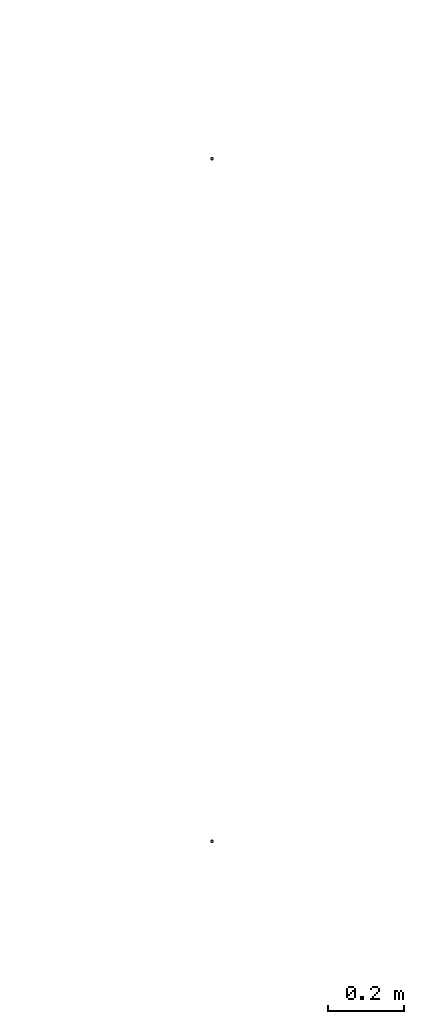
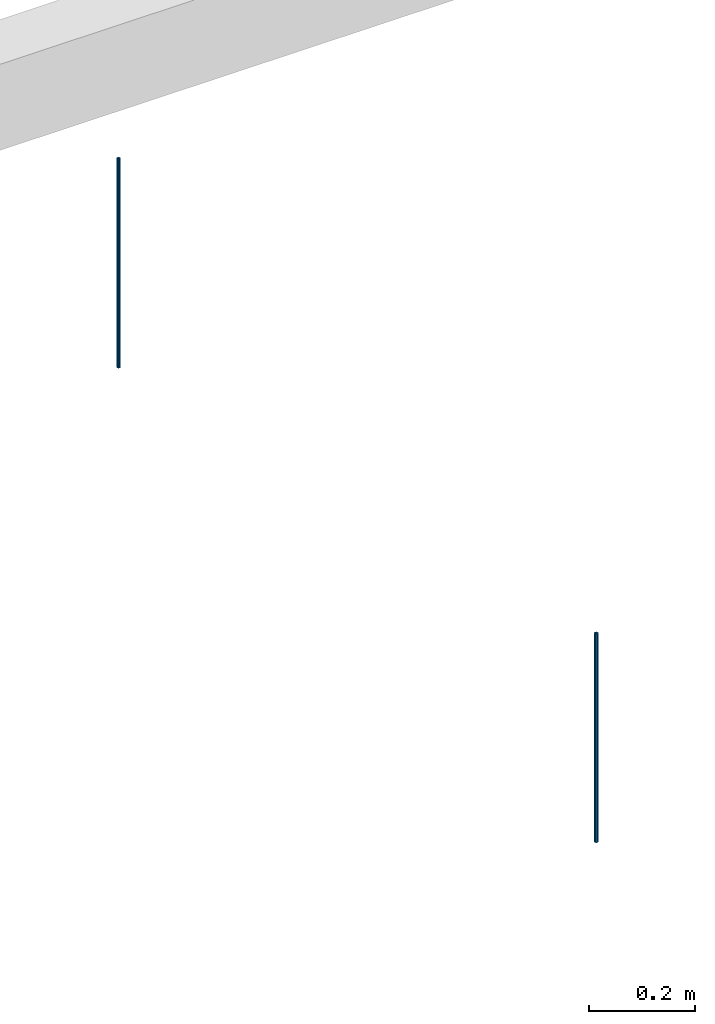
# One storey, part 19 of 23: 2 columns.
"""IFC2X3 building model written with IfcOpenShell, lengths in millimetres."""

from ifc_helpers import new_model, entity, si_unit, converted_unit, derived_unit, direction, frame, origin_with_axes, place, context, subcontext, project, spatial, faceted_brep, material, type_object, element, save


model = new_model("IFC2X3")

# Units and contexts
model_context = context("Model", 3, precision=0.01, world=frame((0.0, 4.29681676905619e-09, 0.0)), true_north=direction((4.01073788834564e-13, 1.0)))
plan_context = context("Plan", 3, precision=0.01, world=frame((0.0, 4.29681676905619e-09, 0.0)), true_north=direction((4.01073788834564e-13, 1.0)))
body_context = subcontext(model_context, "Body", "Model", "MODEL_VIEW")
ifc_project = project(units=[converted_unit("PLANEANGLEUNIT", "DEGREE", entity("IfcPositiveLengthMeasure", 0.0174532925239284), si_unit("PLANEANGLEUNIT", "RADIAN"), dimensions=[0, 0, 0, 0, 0, 0, 0]), si_unit("AREAUNIT", "SQUARE_METRE"), si_unit("LENGTHUNIT", "METRE", prefix="MILLI"), si_unit("MASSUNIT", "GRAM", prefix="KILO"), si_unit("POWERUNIT", "WATT"), si_unit("PRESSUREUNIT", "PASCAL", prefix="KILO"), si_unit("FORCEUNIT", "NEWTON", prefix="KILO"), si_unit("ELECTRICVOLTAGEUNIT", "VOLT"), si_unit("ELECTRICCURRENTUNIT", "AMPERE"), si_unit("THERMODYNAMICTEMPERATUREUNIT", "DEGREE_CELSIUS"), si_unit("TIMEUNIT", "SECOND"), si_unit("VOLUMEUNIT", "CUBIC_METRE"), derived_unit("LINEARVELOCITYUNIT", [(si_unit("LENGTHUNIT", "METRE"), 1), (si_unit("TIMEUNIT", "SECOND"), -1)]), derived_unit("VOLUMETRICFLOWRATEUNIT", [(si_unit("VOLUMEUNIT", "CUBIC_METRE"), 1), (si_unit("TIMEUNIT", "SECOND"), -1)]), derived_unit("THERMALTRANSMITTANCEUNIT", [(si_unit("POWERUNIT", "WATT"), 1), (si_unit("THERMODYNAMICTEMPERATUREUNIT", "KELVIN"), -1), (si_unit("AREAUNIT", "SQUARE_METRE"), -1)]), derived_unit("SOUNDPRESSUREUNIT", [(si_unit("PRESSUREUNIT", "PASCAL"), 1)])], contexts=[model_context, plan_context])

# Site, building, storey
site_placement = place(None, origin_with_axes())
site = spatial("IfcSite", under=ifc_project, at=site_placement, Name="ENGM", CompositionType="ELEMENT")
building_placement = place(site_placement, origin_with_axes())
building = spatial("IfcBuilding", under=site, at=building_placement, Name="TI", CompositionType="ELEMENT")
storey_placement = place(building_placement, frame((0.0, 0.0, 213700.0), z_axis=(0.0, 0.0, 1.0), x_axis=(1.0, 0.0, 0.0)))
storey = spatial("IfcBuildingStorey", under=building, at=storey_placement, Name="Nivå G - 2,0m", CompositionType="ELEMENT", Elevation=213700.0)

# Columns
ifc_material = material(Name="_NSW Stål")
column_type = type_object("IfcColumnType", Name="A241 - GRID-oppheng:A241 - GRID-oppheng - ø10 mm", PredefinedType="COLUMN", material=ifc_material)
column_1_placement = place(storey_placement, frame((593400.000000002, 577100.0, -213700.0), z_axis=(0.0, 0.0, 1.0), x_axis=(1.0, 0.0, 0.0)))
element("IfcColumn", 1, at=column_1_placement, inside=storey, type_object=column_type, Name="A241 - GRID-oppheng:A241 - GRID-oppheng - ø10 mm", ObjectType="A241 - GRID-oppheng:A241 - GRID-oppheng - ø10 mm", context=body_context, shape_type="Brep", body=[
    faceted_brep([(2.00000000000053, 2.95521980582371e-15, 214400.0), (1.96961550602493, -0.347296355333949, 214400.0), (1.96961550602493, -0.347296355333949, 213920.0), (2.00000000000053, 2.95521980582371e-15, 213920.0), (1.87938524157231, -0.684040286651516, 214400.0), (1.87938524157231, -0.684040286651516, 213920.0), (1.73205080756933, -1.00000000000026, 214400.0), (1.73205080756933, -1.00000000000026, 213920.0), (1.53208888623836, -1.28557521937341, 214400.0), (1.53208888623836, -1.28557521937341, 213920.0), (1.28557521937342, -1.53208888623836, 214400.0), (1.28557521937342, -1.53208888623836, 213920.0), (1.00000000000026, -1.73205080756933, 214400.0), (1.00000000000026, -1.73205080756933, 213920.0), (0.684040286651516, -1.87938524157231, 214400.0), (0.684040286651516, -1.87938524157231, 213920.0), (0.347296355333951, -1.96961550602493, 214400.0), (0.347296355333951, -1.96961550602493, 213920.0), (-2.38954857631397e-16, -2.00000000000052, 214400.0), (-2.38954857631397e-16, -2.00000000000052, 213920.0), (-0.347296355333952, -1.96961550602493, 214400.0), (-0.347296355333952, -1.96961550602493, 213920.0), (-0.684040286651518, -1.87938524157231, 214400.0), (-0.684040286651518, -1.87938524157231, 213920.0), (-1.00000000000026, -1.73205080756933, 214400.0), (-1.00000000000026, -1.73205080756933, 213920.0), (-1.28557521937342, -1.53208888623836, 214400.0), (-1.28557521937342, -1.53208888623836, 213920.0), (-1.53208888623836, -1.28557521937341, 214400.0), (-1.53208888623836, -1.28557521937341, 213920.0), (-1.73205080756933, -1.00000000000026, 214400.0), (-1.73205080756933, -1.00000000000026, 213920.0), (-1.87938524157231, -0.684040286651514, 214400.0), (-1.87938524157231, -0.684040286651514, 213920.0), (-1.96961550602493, -0.347296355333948, 214400.0), (-1.96961550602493, -0.347296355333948, 213920.0), (-2.00000000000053, 3.20014916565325e-15, 214400.0), (-2.00000000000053, 3.20014916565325e-15, 213920.0), (-1.96961550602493, 0.347296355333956, 214400.0), (-1.96961550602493, 0.347296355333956, 213920.0), (-1.87938524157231, 0.68404028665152, 214400.0), (-1.87938524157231, 0.68404028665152, 213920.0), (-1.73205080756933, 1.00000000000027, 214400.0), (-1.73205080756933, 1.00000000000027, 213920.0), (-1.53208888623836, 1.28557521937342, 214400.0), (-1.53208888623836, 1.28557521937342, 213920.0), (-1.28557521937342, 1.53208888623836, 214400.0), (-1.28557521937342, 1.53208888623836, 213920.0), (-1.00000000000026, 1.73205080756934, 214400.0), (-1.00000000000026, 1.73205080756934, 213920.0), (-0.684040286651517, 1.87938524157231, 214400.0), (-0.684040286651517, 1.87938524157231, 213920.0), (-0.347296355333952, 1.96961550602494, 214400.0), (-0.347296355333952, 1.96961550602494, 213920.0), (2.50903862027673e-16, 2.00000000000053, 214400.0), (2.50903862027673e-16, 2.00000000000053, 213920.0), (0.347296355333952, 1.96961550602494, 214400.0), (0.347296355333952, 1.96961550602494, 213920.0), (0.684040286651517, 1.87938524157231, 214400.0), (0.684040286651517, 1.87938524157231, 213920.0), (1.00000000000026, 1.73205080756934, 214400.0), (1.00000000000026, 1.73205080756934, 213920.0), (1.28557521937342, 1.53208888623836, 214400.0), (1.28557521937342, 1.53208888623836, 213920.0), (1.53208888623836, 1.28557521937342, 214400.0), (1.53208888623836, 1.28557521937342, 213920.0), (1.73205080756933, 1.00000000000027, 214400.0), (1.73205080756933, 1.00000000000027, 213920.0), (1.87938524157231, 0.68404028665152, 214400.0), (1.87938524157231, 0.68404028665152, 213920.0), (1.96961550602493, 0.347296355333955, 214400.0), (1.96961550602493, 0.347296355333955, 213920.0), (3.93923101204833, -0.694592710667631, 214400.0), (3.99999999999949, 2.95521980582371e-15, 214400.0), (3.99999999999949, 2.95521980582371e-15, 213920.0), (3.93923101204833, -0.694592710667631, 213920.0), (3.93923101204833, 0.694592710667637, 214400.0), (3.93923101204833, 0.694592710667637, 213920.0), (3.75877048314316, 1.3680805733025, 214400.0), (3.75877048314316, 1.3680805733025, 213920.0), (3.46410161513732, 1.99999999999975, 214400.0), (3.46410161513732, 1.99999999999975, 213920.0), (3.06417777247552, 2.57115043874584, 214400.0), (3.06417777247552, 2.57115043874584, 213920.0), (2.57115043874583, 3.06417777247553, 214400.0), (2.57115043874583, 3.06417777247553, 213920.0), (1.99999999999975, 3.46410161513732, 214400.0), (1.99999999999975, 3.46410161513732, 213920.0), (1.3680805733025, 3.75877048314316, 214400.0), (1.3680805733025, 3.75877048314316, 213920.0), (0.694592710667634, 3.93923101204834, 214400.0), (0.694592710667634, 3.93923101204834, 213920.0), (3.73368541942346e-16, 3.9999999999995, 214400.0), (3.73368541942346e-16, 3.9999999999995, 213920.0), (-0.694592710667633, 3.93923101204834, 214400.0), (-0.694592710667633, 3.93923101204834, 213920.0), (-1.3680805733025, 3.75877048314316, 214400.0), (-1.3680805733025, 3.75877048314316, 213920.0), (-1.99999999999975, 3.46410161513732, 214400.0), (-1.99999999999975, 3.46410161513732, 213920.0), (-2.57115043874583, 3.06417777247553, 214400.0), (-2.57115043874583, 3.06417777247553, 213920.0), (-3.06417777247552, 2.57115043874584, 214400.0), (-3.06417777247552, 2.57115043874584, 213920.0), (-3.46410161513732, 1.99999999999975, 214400.0), (-3.46410161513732, 1.99999999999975, 213920.0), (-3.75877048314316, 1.36808057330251, 214400.0), (-3.75877048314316, 1.36808057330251, 213920.0), (-3.93923101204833, 0.694592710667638, 214400.0), (-3.93923101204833, 0.694592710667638, 213920.0), (-3.99999999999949, 3.44507852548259e-15, 214400.0), (-3.99999999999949, 3.44507852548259e-15, 213920.0), (-3.93923101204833, -0.694592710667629, 214400.0), (-3.93923101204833, -0.694592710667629, 213920.0), (-3.75877048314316, -1.3680805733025, 214400.0), (-3.75877048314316, -1.3680805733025, 213920.0), (-3.46410161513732, -1.99999999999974, 214400.0), (-3.46410161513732, -1.99999999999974, 213920.0), (-3.06417777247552, -2.57115043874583, 214400.0), (-3.06417777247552, -2.57115043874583, 213920.0), (-2.57115043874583, -3.06417777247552, 214400.0), (-2.57115043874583, -3.06417777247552, 213920.0), (-1.99999999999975, -3.46410161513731, 214400.0), (-1.99999999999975, -3.46410161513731, 213920.0), (-1.3680805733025, -3.75877048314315, 214400.0), (-1.3680805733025, -3.75877048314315, 213920.0), (-0.694592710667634, -3.93923101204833, 214400.0), (-0.694592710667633, -3.93923101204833, 213920.0), (-6.06348897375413e-16, -3.99999999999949, 214400.0), (-6.06348897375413e-16, -3.99999999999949, 213920.0), (0.694592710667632, -3.93923101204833, 214400.0), (0.694592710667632, -3.93923101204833, 213920.0), (1.3680805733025, -3.75877048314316, 214400.0), (1.3680805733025, -3.75877048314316, 213920.0), (1.99999999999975, -3.46410161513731, 214400.0), (1.99999999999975, -3.46410161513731, 213920.0), (2.57115043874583, -3.06417777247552, 214400.0), (2.57115043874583, -3.06417777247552, 213920.0), (3.06417777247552, -2.57115043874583, 214400.0), (3.06417777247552, -2.57115043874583, 213920.0), (3.46410161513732, -1.99999999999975, 214400.0), (3.46410161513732, -1.99999999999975, 213920.0), (3.75877048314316, -1.3680805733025, 214400.0), (3.75877048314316, -1.3680805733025, 213920.0)], [[[0, 1, 2, 3]], [[1, 4, 5, 2]], [[4, 6, 7, 5]], [[6, 8, 9, 7]], [[8, 10, 11, 9]], [[10, 12, 13, 11]], [[12, 14, 15, 13]], [[14, 16, 17, 15]], [[16, 18, 19, 17]], [[18, 20, 21, 19]], [[20, 22, 23, 21]], [[22, 24, 25, 23]], [[24, 26, 27, 25]], [[26, 28, 29, 27]], [[28, 30, 31, 29]], [[30, 32, 33, 31]], [[32, 34, 35, 33]], [[34, 36, 37, 35]], [[36, 38, 39, 37]], [[38, 40, 41, 39]], [[40, 42, 43, 41]], [[42, 44, 45, 43]], [[44, 46, 47, 45]], [[46, 48, 49, 47]], [[48, 50, 51, 49]], [[50, 52, 53, 51]], [[52, 54, 55, 53]], [[54, 56, 57, 55]], [[56, 58, 59, 57]], [[58, 60, 61, 59]], [[60, 62, 63, 61]], [[62, 64, 65, 63]], [[64, 66, 67, 65]], [[66, 68, 69, 67]], [[68, 70, 71, 69]], [[70, 0, 3, 71]], [[72, 73, 74, 75]], [[73, 76, 77, 74]], [[76, 78, 79, 77]], [[78, 80, 81, 79]], [[80, 82, 83, 81]], [[82, 84, 85, 83]], [[84, 86, 87, 85]], [[86, 88, 89, 87]], [[88, 90, 91, 89]], [[90, 92, 93, 91]], [[92, 94, 95, 93]], [[94, 96, 97, 95]], [[96, 98, 99, 97]], [[98, 100, 101, 99]], [[100, 102, 103, 101]], [[102, 104, 105, 103]], [[104, 106, 107, 105]], [[106, 108, 109, 107]], [[108, 110, 111, 109]], [[110, 112, 113, 111]], [[112, 114, 115, 113]], [[114, 116, 117, 115]], [[116, 118, 119, 117]], [[118, 120, 121, 119]], [[120, 122, 123, 121]], [[122, 124, 125, 123]], [[124, 126, 127, 125]], [[126, 128, 129, 127]], [[128, 130, 131, 129]], [[130, 132, 133, 131]], [[132, 134, 135, 133]], [[134, 136, 137, 135]], [[136, 138, 139, 137]], [[138, 140, 141, 139]], [[140, 142, 143, 141]], [[142, 72, 75, 143]], [[75, 74, 77, 79, 81, 83, 85, 87, 89, 91, 93, 95, 97, 99, 101, 103, 105, 107, 109, 111, 113, 115, 117, 119, 121, 123, 125, 127, 129, 131, 133, 135, 137, 139, 141, 143], [3, 2, 5, 7, 9, 11, 13, 15, 17, 19, 21, 23, 25, 27, 29, 31, 33, 35, 37, 39, 41, 43, 45, 47, 49, 51, 53, 55, 57, 59, 61, 63, 65, 67, 69, 71]], [[142, 140, 138, 136, 134, 132, 130, 128, 126, 124, 122, 120, 118, 116, 114, 112, 110, 108, 106, 104, 102, 100, 98, 96, 94, 92, 90, 88, 86, 84, 82, 80, 78, 76, 73, 72], [70, 68, 66, 64, 62, 60, 58, 56, 54, 52, 50, 48, 46, 44, 42, 40, 38, 36, 34, 32, 30, 28, 26, 24, 22, 20, 18, 16, 14, 12, 10, 8, 6, 4, 1, 0]]], orient=[[False], [False], [False], [False], [False], [False], [False], [False], [False], [False], [False], [False], [False], [False], [False], [False], [False], [False], [False], [False], [False], [False], [False], [False], [False], [False], [False], [False], [False], [False], [False], [False], [False], [False], [False], [False], [False], [False], [False], [False], [False], [False], [False], [False], [False], [False], [False], [False], [False], [False], [False], [False], [False], [False], [False], [False], [False], [False], [False], [False], [False], [False], [False], [False], [False], [False], [False], [False], [False], [False], [False], [False], [False, False], [False, False]]),
])
column_2_placement = place(storey_placement, frame((593400.000000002, 575300.0, -213700.0), z_axis=(0.0, 0.0, 1.0), x_axis=(1.0, 0.0, 0.0)))
element("IfcColumn", 2, at=column_2_placement, inside=storey, type_object=column_type, Name="A241 - GRID-oppheng:A241 - GRID-oppheng - ø10 mm", ObjectType="A241 - GRID-oppheng:A241 - GRID-oppheng - ø10 mm", context=body_context, shape_type="Brep", body=[
    faceted_brep([(2.00000000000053, 2.95521980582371e-15, 214400.0), (1.96961550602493, -0.347296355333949, 214400.0), (1.96961550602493, -0.347296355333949, 213920.0), (2.00000000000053, 2.95521980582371e-15, 213920.0), (1.87938524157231, -0.684040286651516, 214400.0), (1.87938524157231, -0.684040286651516, 213920.0), (1.73205080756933, -1.00000000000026, 214400.0), (1.73205080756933, -1.00000000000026, 213920.0), (1.53208888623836, -1.28557521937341, 214400.0), (1.53208888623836, -1.28557521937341, 213920.0), (1.28557521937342, -1.53208888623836, 214400.0), (1.28557521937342, -1.53208888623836, 213920.0), (1.00000000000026, -1.73205080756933, 214400.0), (1.00000000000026, -1.73205080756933, 213920.0), (0.684040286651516, -1.87938524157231, 214400.0), (0.684040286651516, -1.87938524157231, 213920.0), (0.347296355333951, -1.96961550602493, 214400.0), (0.347296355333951, -1.96961550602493, 213920.0), (-2.38954857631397e-16, -2.00000000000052, 214400.0), (-2.38954857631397e-16, -2.00000000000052, 213920.0), (-0.347296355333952, -1.96961550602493, 214400.0), (-0.347296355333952, -1.96961550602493, 213920.0), (-0.684040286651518, -1.87938524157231, 214400.0), (-0.684040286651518, -1.87938524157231, 213920.0), (-1.00000000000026, -1.73205080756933, 214400.0), (-1.00000000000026, -1.73205080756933, 213920.0), (-1.28557521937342, -1.53208888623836, 214400.0), (-1.28557521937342, -1.53208888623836, 213920.0), (-1.53208888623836, -1.28557521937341, 214400.0), (-1.53208888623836, -1.28557521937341, 213920.0), (-1.73205080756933, -1.00000000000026, 214400.0), (-1.73205080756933, -1.00000000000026, 213920.0), (-1.87938524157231, -0.684040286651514, 214400.0), (-1.87938524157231, -0.684040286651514, 213920.0), (-1.96961550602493, -0.347296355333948, 214400.0), (-1.96961550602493, -0.347296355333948, 213920.0), (-2.00000000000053, 3.20014916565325e-15, 214400.0), (-2.00000000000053, 3.20014916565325e-15, 213920.0), (-1.96961550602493, 0.347296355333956, 214400.0), (-1.96961550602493, 0.347296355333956, 213920.0), (-1.87938524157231, 0.68404028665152, 214400.0), (-1.87938524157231, 0.68404028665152, 213920.0), (-1.73205080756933, 1.00000000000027, 214400.0), (-1.73205080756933, 1.00000000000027, 213920.0), (-1.53208888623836, 1.28557521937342, 214400.0), (-1.53208888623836, 1.28557521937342, 213920.0), (-1.28557521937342, 1.53208888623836, 214400.0), (-1.28557521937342, 1.53208888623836, 213920.0), (-1.00000000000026, 1.73205080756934, 214400.0), (-1.00000000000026, 1.73205080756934, 213920.0), (-0.684040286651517, 1.87938524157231, 214400.0), (-0.684040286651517, 1.87938524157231, 213920.0), (-0.347296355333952, 1.96961550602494, 214400.0), (-0.347296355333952, 1.96961550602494, 213920.0), (2.50903862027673e-16, 2.00000000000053, 214400.0), (2.50903862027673e-16, 2.00000000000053, 213920.0), (0.347296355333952, 1.96961550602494, 214400.0), (0.347296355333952, 1.96961550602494, 213920.0), (0.684040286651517, 1.87938524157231, 214400.0), (0.684040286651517, 1.87938524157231, 213920.0), (1.00000000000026, 1.73205080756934, 214400.0), (1.00000000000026, 1.73205080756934, 213920.0), (1.28557521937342, 1.53208888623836, 214400.0), (1.28557521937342, 1.53208888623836, 213920.0), (1.53208888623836, 1.28557521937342, 214400.0), (1.53208888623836, 1.28557521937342, 213920.0), (1.73205080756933, 1.00000000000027, 214400.0), (1.73205080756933, 1.00000000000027, 213920.0), (1.87938524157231, 0.68404028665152, 214400.0), (1.87938524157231, 0.68404028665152, 213920.0), (1.96961550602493, 0.347296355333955, 214400.0), (1.96961550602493, 0.347296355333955, 213920.0), (3.93923101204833, -0.694592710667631, 214400.0), (3.99999999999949, 2.95521980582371e-15, 214400.0), (3.99999999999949, 2.95521980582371e-15, 213920.0), (3.93923101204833, -0.694592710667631, 213920.0), (3.93923101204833, 0.694592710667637, 214400.0), (3.93923101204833, 0.694592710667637, 213920.0), (3.75877048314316, 1.3680805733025, 214400.0), (3.75877048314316, 1.3680805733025, 213920.0), (3.46410161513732, 1.99999999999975, 214400.0), (3.46410161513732, 1.99999999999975, 213920.0), (3.06417777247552, 2.57115043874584, 214400.0), (3.06417777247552, 2.57115043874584, 213920.0), (2.57115043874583, 3.06417777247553, 214400.0), (2.57115043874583, 3.06417777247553, 213920.0), (1.99999999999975, 3.46410161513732, 214400.0), (1.99999999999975, 3.46410161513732, 213920.0), (1.3680805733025, 3.75877048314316, 214400.0), (1.3680805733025, 3.75877048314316, 213920.0), (0.694592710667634, 3.93923101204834, 214400.0), (0.694592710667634, 3.93923101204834, 213920.0), (3.73368541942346e-16, 3.9999999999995, 214400.0), (3.73368541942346e-16, 3.9999999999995, 213920.0), (-0.694592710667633, 3.93923101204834, 214400.0), (-0.694592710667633, 3.93923101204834, 213920.0), (-1.3680805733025, 3.75877048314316, 214400.0), (-1.3680805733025, 3.75877048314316, 213920.0), (-1.99999999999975, 3.46410161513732, 214400.0), (-1.99999999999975, 3.46410161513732, 213920.0), (-2.57115043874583, 3.06417777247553, 214400.0), (-2.57115043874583, 3.06417777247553, 213920.0), (-3.06417777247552, 2.57115043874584, 214400.0), (-3.06417777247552, 2.57115043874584, 213920.0), (-3.46410161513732, 1.99999999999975, 214400.0), (-3.46410161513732, 1.99999999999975, 213920.0), (-3.75877048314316, 1.36808057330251, 214400.0), (-3.75877048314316, 1.36808057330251, 213920.0), (-3.93923101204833, 0.694592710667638, 214400.0), (-3.93923101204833, 0.694592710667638, 213920.0), (-3.99999999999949, 3.44507852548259e-15, 214400.0), (-3.99999999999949, 3.44507852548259e-15, 213920.0), (-3.93923101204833, -0.694592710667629, 214400.0), (-3.93923101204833, -0.694592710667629, 213920.0), (-3.75877048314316, -1.3680805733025, 214400.0), (-3.75877048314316, -1.3680805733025, 213920.0), (-3.46410161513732, -1.99999999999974, 214400.0), (-3.46410161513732, -1.99999999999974, 213920.0), (-3.06417777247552, -2.57115043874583, 214400.0), (-3.06417777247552, -2.57115043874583, 213920.0), (-2.57115043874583, -3.06417777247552, 214400.0), (-2.57115043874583, -3.06417777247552, 213920.0), (-1.99999999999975, -3.46410161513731, 214400.0), (-1.99999999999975, -3.46410161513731, 213920.0), (-1.3680805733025, -3.75877048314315, 214400.0), (-1.3680805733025, -3.75877048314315, 213920.0), (-0.694592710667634, -3.93923101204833, 214400.0), (-0.694592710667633, -3.93923101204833, 213920.0), (-6.06348897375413e-16, -3.99999999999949, 214400.0), (-6.06348897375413e-16, -3.99999999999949, 213920.0), (0.694592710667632, -3.93923101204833, 214400.0), (0.694592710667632, -3.93923101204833, 213920.0), (1.3680805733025, -3.75877048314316, 214400.0), (1.3680805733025, -3.75877048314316, 213920.0), (1.99999999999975, -3.46410161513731, 214400.0), (1.99999999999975, -3.46410161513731, 213920.0), (2.57115043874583, -3.06417777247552, 214400.0), (2.57115043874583, -3.06417777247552, 213920.0), (3.06417777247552, -2.57115043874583, 214400.0), (3.06417777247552, -2.57115043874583, 213920.0), (3.46410161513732, -1.99999999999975, 214400.0), (3.46410161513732, -1.99999999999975, 213920.0), (3.75877048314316, -1.3680805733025, 214400.0), (3.75877048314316, -1.3680805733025, 213920.0)], [[[0, 1, 2, 3]], [[1, 4, 5, 2]], [[4, 6, 7, 5]], [[6, 8, 9, 7]], [[8, 10, 11, 9]], [[10, 12, 13, 11]], [[12, 14, 15, 13]], [[14, 16, 17, 15]], [[16, 18, 19, 17]], [[18, 20, 21, 19]], [[20, 22, 23, 21]], [[22, 24, 25, 23]], [[24, 26, 27, 25]], [[26, 28, 29, 27]], [[28, 30, 31, 29]], [[30, 32, 33, 31]], [[32, 34, 35, 33]], [[34, 36, 37, 35]], [[36, 38, 39, 37]], [[38, 40, 41, 39]], [[40, 42, 43, 41]], [[42, 44, 45, 43]], [[44, 46, 47, 45]], [[46, 48, 49, 47]], [[48, 50, 51, 49]], [[50, 52, 53, 51]], [[52, 54, 55, 53]], [[54, 56, 57, 55]], [[56, 58, 59, 57]], [[58, 60, 61, 59]], [[60, 62, 63, 61]], [[62, 64, 65, 63]], [[64, 66, 67, 65]], [[66, 68, 69, 67]], [[68, 70, 71, 69]], [[70, 0, 3, 71]], [[72, 73, 74, 75]], [[73, 76, 77, 74]], [[76, 78, 79, 77]], [[78, 80, 81, 79]], [[80, 82, 83, 81]], [[82, 84, 85, 83]], [[84, 86, 87, 85]], [[86, 88, 89, 87]], [[88, 90, 91, 89]], [[90, 92, 93, 91]], [[92, 94, 95, 93]], [[94, 96, 97, 95]], [[96, 98, 99, 97]], [[98, 100, 101, 99]], [[100, 102, 103, 101]], [[102, 104, 105, 103]], [[104, 106, 107, 105]], [[106, 108, 109, 107]], [[108, 110, 111, 109]], [[110, 112, 113, 111]], [[112, 114, 115, 113]], [[114, 116, 117, 115]], [[116, 118, 119, 117]], [[118, 120, 121, 119]], [[120, 122, 123, 121]], [[122, 124, 125, 123]], [[124, 126, 127, 125]], [[126, 128, 129, 127]], [[128, 130, 131, 129]], [[130, 132, 133, 131]], [[132, 134, 135, 133]], [[134, 136, 137, 135]], [[136, 138, 139, 137]], [[138, 140, 141, 139]], [[140, 142, 143, 141]], [[142, 72, 75, 143]], [[75, 74, 77, 79, 81, 83, 85, 87, 89, 91, 93, 95, 97, 99, 101, 103, 105, 107, 109, 111, 113, 115, 117, 119, 121, 123, 125, 127, 129, 131, 133, 135, 137, 139, 141, 143], [3, 2, 5, 7, 9, 11, 13, 15, 17, 19, 21, 23, 25, 27, 29, 31, 33, 35, 37, 39, 41, 43, 45, 47, 49, 51, 53, 55, 57, 59, 61, 63, 65, 67, 69, 71]], [[142, 140, 138, 136, 134, 132, 130, 128, 126, 124, 122, 120, 118, 116, 114, 112, 110, 108, 106, 104, 102, 100, 98, 96, 94, 92, 90, 88, 86, 84, 82, 80, 78, 76, 73, 72], [70, 68, 66, 64, 62, 60, 58, 56, 54, 52, 50, 48, 46, 44, 42, 40, 38, 36, 34, 32, 30, 28, 26, 24, 22, 20, 18, 16, 14, 12, 10, 8, 6, 4, 1, 0]]], orient=[[False], [False], [False], [False], [False], [False], [False], [False], [False], [False], [False], [False], [False], [False], [False], [False], [False], [False], [False], [False], [False], [False], [False], [False], [False], [False], [False], [False], [False], [False], [False], [False], [False], [False], [False], [False], [False], [False], [False], [False], [False], [False], [False], [False], [False], [False], [False], [False], [False], [False], [False], [False], [False], [False], [False], [False], [False], [False], [False], [False], [False], [False], [False], [False], [False], [False], [False], [False], [False], [False], [False], [False], [False, False], [False, False]]),
])

save(model, "model.ifc")
